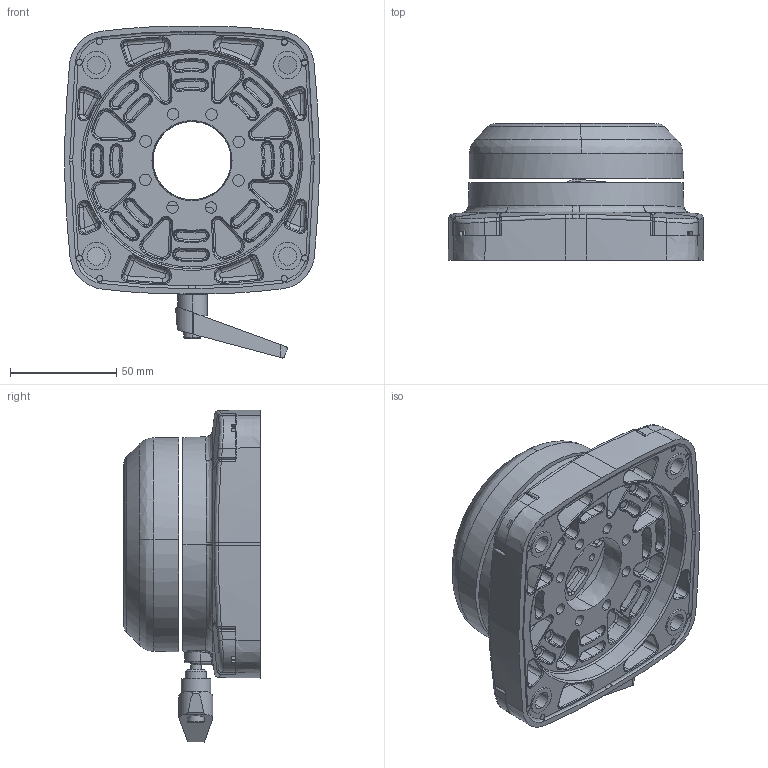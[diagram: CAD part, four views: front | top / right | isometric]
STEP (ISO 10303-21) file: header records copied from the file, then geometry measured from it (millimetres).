
FILE_DESCRIPTION (( 'STEP AP203' ), '1' );
FILE_NAME ('TP.045.1634.STEP', '2026-09-30T08:29:25', ( '' ), ( '' ), 'SwSTEP 2.0', 'SolidWorks 2015', '' );
FILE_SCHEMA (( 'CONFIG_CONTROL_DESIGN' ));
Length unit declared in the file: millimetre
Products named in the file (5): TP.045.Disk; TP_045.600; TP.45.600; TP.045.Serrated Washer; TP.045.1634
Assembly tree (4 placements, depth 3):
  TP.045.1634
    TP.45.600
      TP_045.600
      TP.045.Serrated Washer
    TP.045.Disk
Bounding box: 120.28 x 64.38 x 156.36 mm (x, y, z)
Volume: 264664.3 mm3; surface area: 104129.2 mm2
Topology: 7 solids, 14 shells, 1807 faces, 4400 edges, 2649 vertices
Faces by surface type: bspline 743, cylinder 432, plane 228, cone 228, torus 176
Entity records: 91556 total; most frequent: CARTESIAN_POINT 53651, ORIENTED_EDGE 8716, DIRECTION 6413, EDGE_CURVE 4358, AXIS2_PLACEMENT_3D 2666, VERTEX_POINT 2649, EDGE_LOOP 1931, FACE_OUTER_BOUND 1807
